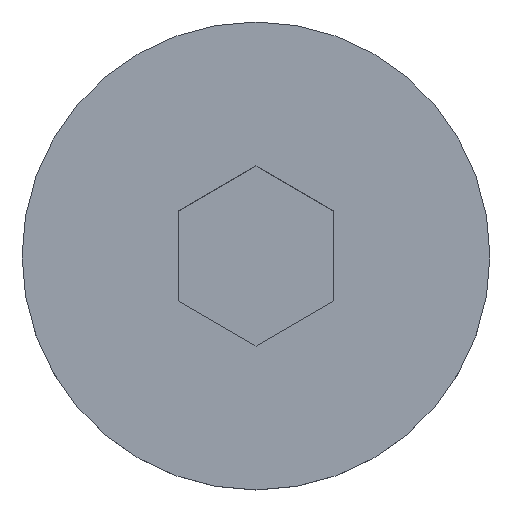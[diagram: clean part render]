
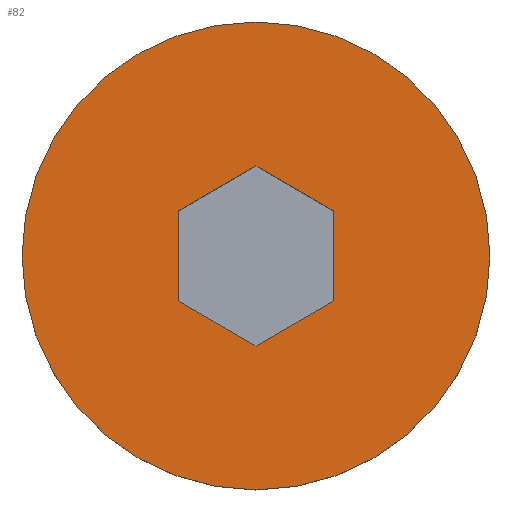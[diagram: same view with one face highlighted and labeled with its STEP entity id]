
A CAD part, top view. The second image highlights one B-rep face of the part: STEP entity #82.
In plain terms, the highlighted planar face has unit normal (0, 0, 1).
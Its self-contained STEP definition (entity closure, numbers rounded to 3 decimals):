
#14 = EDGE_CURVE ( 'NONE', #42, #254, #290, .T. ) ;
#17 = AXIS2_PLACEMENT_3D ( 'NONE', #347, #294, #414 ) ;
#22 = CARTESIAN_POINT ( 'NONE',  ( -2.5, 1.443, 1.5 ) ) ;
#27 = PLANE ( 'NONE',  #45 ) ;
#42 = VERTEX_POINT ( 'NONE', #426 ) ;
#45 = AXIS2_PLACEMENT_3D ( 'NONE', #420, #304, #394 ) ;
#53 = ORIENTED_EDGE ( 'NONE', *, *, #415, .F. ) ;
#56 = VERTEX_POINT ( 'NONE', #134 ) ;
#66 = ORIENTED_EDGE ( 'NONE', *, *, #288, .F. ) ;
#67 = LINE ( 'NONE', #235, #180 ) ;
#74 = VERTEX_POINT ( 'NONE', #176 ) ;
#82 = ADVANCED_FACE ( 'NONE', ( #224, #187 ), #27, .T. ) ;
#89 = EDGE_LOOP ( 'NONE', ( #90, #371 ) ) ;
#90 = ORIENTED_EDGE ( 'NONE', *, *, #311, .T. ) ;
#100 = CARTESIAN_POINT ( 'NONE',  ( 2.5, -1.443, 1.5 ) ) ;
#106 = CARTESIAN_POINT ( 'NONE',  ( 2.5, -1.443, 1.5 ) ) ;
#107 = CARTESIAN_POINT ( 'NONE',  ( -2.5, -1.443, 1.5 ) ) ;
#121 = VERTEX_POINT ( 'NONE', #22 ) ;
#126 = VECTOR ( 'NONE', #328, 1000. ) ;
#131 = VERTEX_POINT ( 'NONE', #202 ) ;
#133 = CIRCLE ( 'NONE', #17, 7.5 ) ;
#134 = CARTESIAN_POINT ( 'NONE',  ( 7.5, 0., 1.5 ) ) ;
#140 = DIRECTION ( 'NONE',  ( 0., 1., 0. ) ) ;
#146 = LINE ( 'NONE', #400, #418 ) ;
#149 = EDGE_CURVE ( 'NONE', #254, #121, #252, .T. ) ;
#174 = LINE ( 'NONE', #100, #403 ) ;
#176 = CARTESIAN_POINT ( 'NONE',  ( -2.5, -1.443, 1.5 ) ) ;
#180 = VECTOR ( 'NONE', #351, 1000. ) ;
#183 = LINE ( 'NONE', #107, #391 ) ;
#187 = FACE_OUTER_BOUND ( 'NONE', #89, .T. ) ;
#199 = ORIENTED_EDGE ( 'NONE', *, *, #201, .F. ) ;
#201 = EDGE_CURVE ( 'NONE', #121, #74, #67, .T. ) ;
#202 = CARTESIAN_POINT ( 'NONE',  ( 0., -2.887, 1.5 ) ) ;
#204 = ORIENTED_EDGE ( 'NONE', *, *, #14, .F. ) ;
#214 = DIRECTION ( 'NONE',  ( 0.866, -0.5, 0. ) ) ;
#224 = FACE_BOUND ( 'NONE', #406, .T. ) ;
#226 = EDGE_CURVE ( 'NONE', #56, #297, #133, .T. ) ;
#235 = CARTESIAN_POINT ( 'NONE',  ( -2.5, 1.443, 1.5 ) ) ;
#247 = CARTESIAN_POINT ( 'NONE',  ( -7.5, 0., 1.5 ) ) ;
#252 = LINE ( 'NONE', #383, #285 ) ;
#254 = VERTEX_POINT ( 'NONE', #352 ) ;
#266 = DIRECTION ( 'NONE',  ( -0.866, -0.5, 0. ) ) ;
#271 = DIRECTION ( 'NONE',  ( 1., 0., 0. ) ) ;
#273 = ORIENTED_EDGE ( 'NONE', *, *, #149, .F. ) ;
#282 = DIRECTION ( 'NONE',  ( 0.866, 0.5, 0. ) ) ;
#285 = VECTOR ( 'NONE', #266, 1000. ) ;
#288 = EDGE_CURVE ( 'NONE', #329, #42, #174, .T. ) ;
#290 = LINE ( 'NONE', #422, #126 ) ;
#294 = DIRECTION ( 'NONE',  ( 0., 0., 1. ) ) ;
#297 = VERTEX_POINT ( 'NONE', #247 ) ;
#301 = ORIENTED_EDGE ( 'NONE', *, *, #356, .F. ) ;
#304 = DIRECTION ( 'NONE',  ( 0., 0., 1. ) ) ;
#311 = EDGE_CURVE ( 'NONE', #297, #56, #325, .T. ) ;
#325 = CIRCLE ( 'NONE', #404, 7.5 ) ;
#328 = DIRECTION ( 'NONE',  ( -0.866, 0.5, 0. ) ) ;
#329 = VERTEX_POINT ( 'NONE', #106 ) ;
#347 = CARTESIAN_POINT ( 'NONE',  ( 0., 0., 1.5 ) ) ;
#351 = DIRECTION ( 'NONE',  ( 0., -1., 0. ) ) ;
#352 = CARTESIAN_POINT ( 'NONE',  ( 0., 2.887, 1.5 ) ) ;
#356 = EDGE_CURVE ( 'NONE', #74, #131, #183, .T. ) ;
#361 = CARTESIAN_POINT ( 'NONE',  ( 0., 0., 1.5 ) ) ;
#362 = DIRECTION ( 'NONE',  ( 0., 0., 1. ) ) ;
#371 = ORIENTED_EDGE ( 'NONE', *, *, #226, .T. ) ;
#383 = CARTESIAN_POINT ( 'NONE',  ( 0., 2.887, 1.5 ) ) ;
#391 = VECTOR ( 'NONE', #214, 1000. ) ;
#394 = DIRECTION ( 'NONE',  ( 1., 0., 0. ) ) ;
#400 = CARTESIAN_POINT ( 'NONE',  ( 0., -2.887, 1.5 ) ) ;
#403 = VECTOR ( 'NONE', #140, 1000. ) ;
#404 = AXIS2_PLACEMENT_3D ( 'NONE', #361, #362, #271 ) ;
#406 = EDGE_LOOP ( 'NONE', ( #204, #66, #53, #301, #199, #273 ) ) ;
#414 = DIRECTION ( 'NONE',  ( 1., 0., 0. ) ) ;
#415 = EDGE_CURVE ( 'NONE', #131, #329, #146, .T. ) ;
#418 = VECTOR ( 'NONE', #282, 1000. ) ;
#420 = CARTESIAN_POINT ( 'NONE',  ( 0., 0., 1.5 ) ) ;
#422 = CARTESIAN_POINT ( 'NONE',  ( 2.5, 1.443, 1.5 ) ) ;
#426 = CARTESIAN_POINT ( 'NONE',  ( 2.5, 1.443, 1.5 ) ) ;
